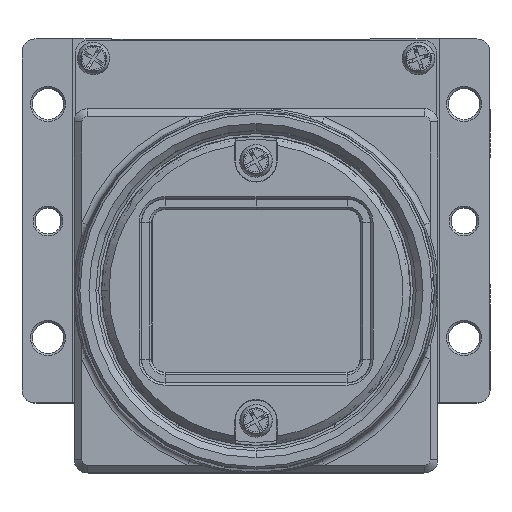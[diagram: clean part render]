
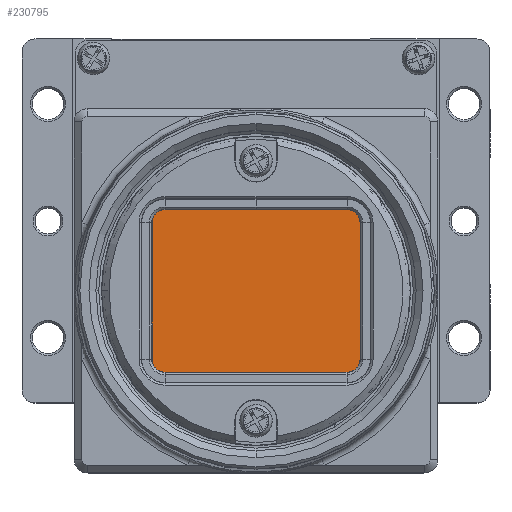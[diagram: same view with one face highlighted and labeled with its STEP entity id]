
A CAD part, top view. The second image highlights one B-rep face of the part: STEP entity #230795.
In plain terms, the highlighted planar face has unit normal (0, 0, 1).
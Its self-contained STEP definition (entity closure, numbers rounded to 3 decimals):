
#4655 = CARTESIAN_POINT ( 'NONE',  ( -9., -12.904, 157.955 ) ) ;
#45467 = VECTOR ( 'NONE', #252087, 1000. ) ;
#47203 = ORIENTED_EDGE ( 'NONE', *, *, #166920, .T. ) ;
#68715 = VERTEX_POINT ( 'NONE', #84877 ) ;
#75242 = VERTEX_POINT ( 'NONE', #162251 ) ;
#77689 = ORIENTED_EDGE ( 'NONE', *, *, #171104, .T. ) ;
#81051 = VECTOR ( 'NONE', #186283, 1000. ) ;
#84877 = CARTESIAN_POINT ( 'NONE',  ( -9., 1.596, 157.955 ) ) ;
#95564 = PLANE ( 'NONE',  #109989 ) ;
#99221 = LINE ( 'NONE', #164976, #45467 ) ;
#109989 = AXIS2_PLACEMENT_3D ( 'NONE', #157069, #244204, #135628 ) ;
#117737 = CARTESIAN_POINT ( 'NONE',  ( -9., -12.904, 157.955 ) ) ;
#119798 = FACE_OUTER_BOUND ( 'NONE', #220082, .T. ) ;
#120177 = ORIENTED_EDGE ( 'NONE', *, *, #270809, .T. ) ;
#135628 = DIRECTION ( 'NONE',  ( -1., 0., 0. ) ) ;
#143001 = DIRECTION ( 'NONE',  ( -1., 0., 0. ) ) ;
#157069 = CARTESIAN_POINT ( 'NONE',  ( 0., -5.654, 157.955 ) ) ;
#158260 = LINE ( 'NONE', #246790, #235659 ) ;
#162251 = CARTESIAN_POINT ( 'NONE',  ( 9., -12.904, 157.955 ) ) ;
#164976 = CARTESIAN_POINT ( 'NONE',  ( 9., -12.904, 157.955 ) ) ;
#166920 = EDGE_CURVE ( 'NONE', #75242, #195138, #99221, .T. ) ;
#171104 = EDGE_CURVE ( 'NONE', #195138, #68715, #271622, .T. ) ;
#186283 = DIRECTION ( 'NONE',  ( 1., 0., 0. ) ) ;
#195138 = VERTEX_POINT ( 'NONE', #264761 ) ;
#204463 = CARTESIAN_POINT ( 'NONE',  ( -9., 1.596, 157.955 ) ) ;
#210756 = VECTOR ( 'NONE', #143001, 1000. ) ;
#220082 = EDGE_LOOP ( 'NONE', ( #47203, #77689, #265401, #120177 ) ) ;
#230505 = LINE ( 'NONE', #117737, #81051 ) ;
#230795 = ADVANCED_FACE ( 'NONE', ( #119798 ), #95564, .F. ) ;
#235659 = VECTOR ( 'NONE', #242544, 1000. ) ;
#242544 = DIRECTION ( 'NONE',  ( 0., -1., 0. ) ) ;
#244204 = DIRECTION ( 'NONE',  ( 0., 0., -1. ) ) ;
#245710 = VERTEX_POINT ( 'NONE', #4655 ) ;
#246790 = CARTESIAN_POINT ( 'NONE',  ( -9., -12.904, 157.955 ) ) ;
#252087 = DIRECTION ( 'NONE',  ( 0., 1., 0. ) ) ;
#254800 = EDGE_CURVE ( 'NONE', #68715, #245710, #158260, .T. ) ;
#264761 = CARTESIAN_POINT ( 'NONE',  ( 9., 1.596, 157.955 ) ) ;
#265401 = ORIENTED_EDGE ( 'NONE', *, *, #254800, .T. ) ;
#270809 = EDGE_CURVE ( 'NONE', #245710, #75242, #230505, .T. ) ;
#271622 = LINE ( 'NONE', #204463, #210756 ) ;
